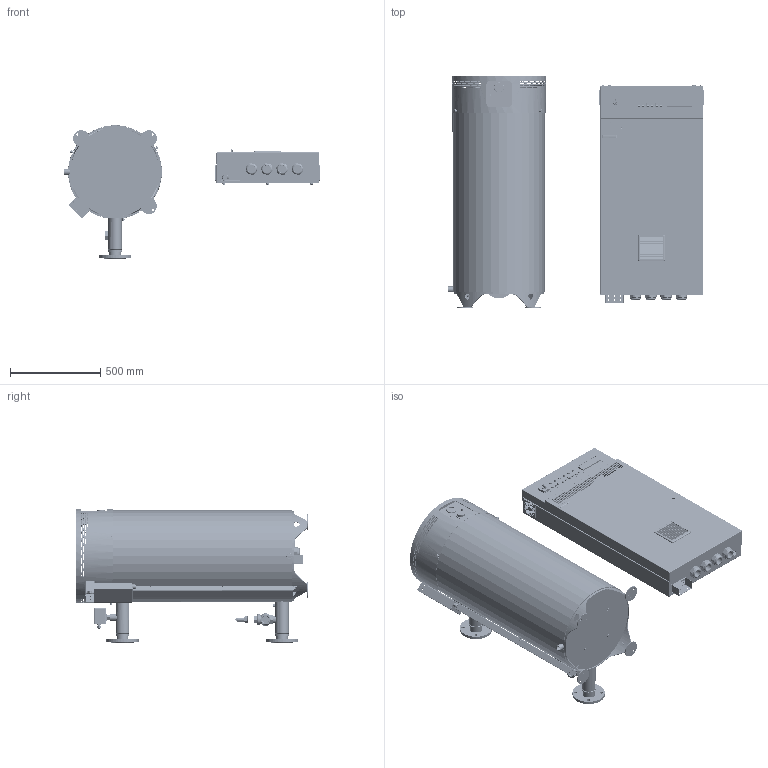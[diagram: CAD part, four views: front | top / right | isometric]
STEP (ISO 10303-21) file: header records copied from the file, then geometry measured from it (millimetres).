
FILE_DESCRIPTION(/* description */ (''),/* implementation_level */ '2;1');
FILE_NAME(/* name */ 'Z:\!!!Обмен файлами\Маркелова Л.В\Задача 193\225-250\Водонагреватель 225-250.stp',/* time_stamp */ '2023-07-11T09:47:52+03:00',/* author */ ('nvsk-constr2'),/* organization */ (''),/* preprocessor_version */ 'ST-DEVELOPER v18.1',/* originating_system */ 'Autodesk Inventor 2021',/* authorisation */ '');
FILE_SCHEMA (('AUTOMOTIVE_DESIGN { 1 0 10303 214 3 1 1 }'));
Products named in the file (3): Сборка15; 421457.005 ШАУ-250_Shrinkwrap_1; 621179.010 АВП-НП-14_S
hrinkwrap_1
Assembly tree (2 placements, depth 2):
  Сборка15
    421457.005 ШАУ-250_Shrinkwrap_1
    621179.010 АВП-НП-14_S
hrinkwrap_1
Bounding box: 1418.21 x 1289 x 739.85 mm (x, y, z)
Surface area: 14660328.5 mm2 (no closed solid volume)
Topology: 0 solids, 243 shells, 3767 faces, 12063 edges, 8393 vertices
Faces by surface type: plane 1897, cylinder 1197, cone 347, torus 181, bspline 101, sphere 44
Full cylindrical faces by diameter (mm): 3.242 x7, 4 x6, 4.317 x2, 4.5 x4, 4.917 x1, 5.5 x3, 5.9 x8, 6 x7, 6.5 x10, 7 x19, 7.119 x1, 7.834 x2, 8 x8, 8.376 x1, 8.5 x8, 8.8 x2, 9 x15, 9.936 x1, 10 x11, 11.4 x6, 11.433 x2, 11.5 x10, 11.63 x2, 12 x5, 13 x16, 13.562 x1, 14 x11, 14.367 x1, 14.63 x3, 14.778 x2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
Entity records: 159843 total; most frequent: CARTESIAN_POINT 45722, DIRECTION 23177, ORIENTED_EDGE 21211, EDGE_CURVE 12057, AXIS2_PLACEMENT_3D 8493, VERTEX_POINT 8393, LINE 6191, VECTOR 6191
